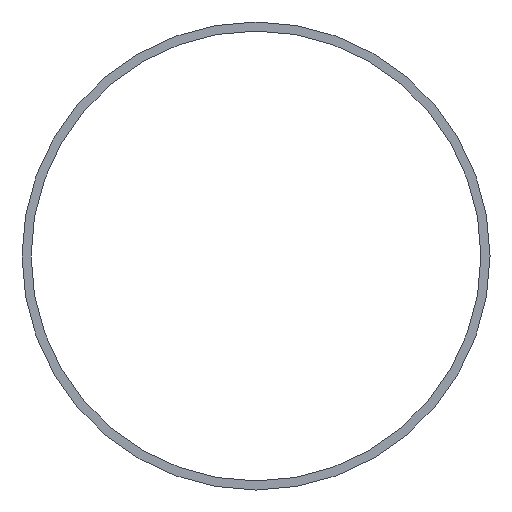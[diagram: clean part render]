
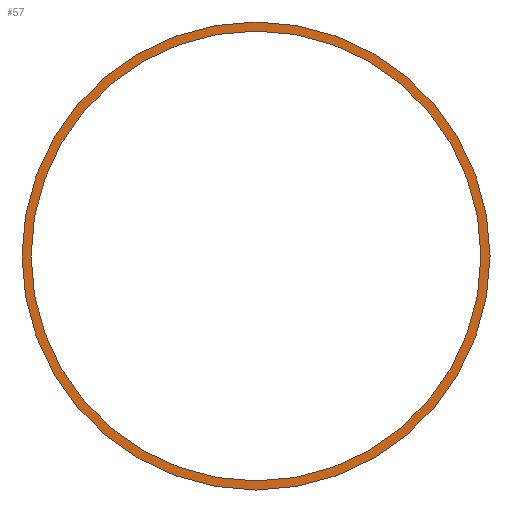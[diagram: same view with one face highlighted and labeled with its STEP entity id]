
A CAD part, front view. The second image highlights one B-rep face of the part: STEP entity #57.
In plain terms, the highlighted planar face has unit normal (0, -1, 0).
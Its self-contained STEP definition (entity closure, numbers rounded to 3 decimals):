
#15=PLANE('',#73);
#19=FACE_BOUND('',#30,.T.);
#23=FACE_OUTER_BOUND('',#29,.T.);
#29=EDGE_LOOP('',(#49));
#30=EDGE_LOOP('',(#50));
#34=CIRCLE('',#69,99.);
#36=CIRCLE('',#72,103.);
#38=VERTEX_POINT('',#97);
#40=VERTEX_POINT('',#102);
#42=EDGE_CURVE('',#38,#38,#34,.T.);
#44=EDGE_CURVE('',#40,#40,#36,.T.);
#49=ORIENTED_EDGE('',*,*,#44,.T.);
#50=ORIENTED_EDGE('',*,*,#42,.T.);
#57=ADVANCED_FACE('',(#23,#19),#15,.F.);
#69=AXIS2_PLACEMENT_3D('',#98,#81,#82);
#72=AXIS2_PLACEMENT_3D('',#103,#87,#88);
#73=AXIS2_PLACEMENT_3D('',#104,#89,#90);
#81=DIRECTION('center_axis',(0.,1.,0.));
#82=DIRECTION('ref_axis',(1.,0.,0.));
#87=DIRECTION('center_axis',(0.,-1.,0.));
#88=DIRECTION('ref_axis',(1.,0.,0.));
#89=DIRECTION('center_axis',(0.,1.,0.));
#90=DIRECTION('ref_axis',(0.,0.,1.));
#97=CARTESIAN_POINT('',(-99.,0.,0.));
#98=CARTESIAN_POINT('Origin',(0.,0.,0.));
#102=CARTESIAN_POINT('',(-103.,0.,0.));
#103=CARTESIAN_POINT('Origin',(0.,0.,0.));
#104=CARTESIAN_POINT('Origin',(0.,0.,0.));
